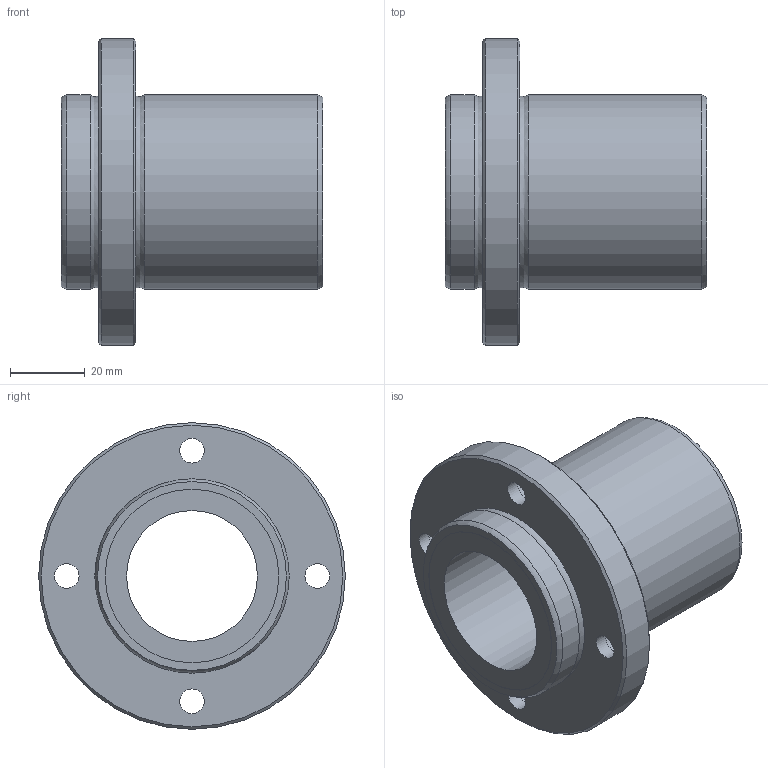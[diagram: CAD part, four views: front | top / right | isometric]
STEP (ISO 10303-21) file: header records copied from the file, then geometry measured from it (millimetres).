
FILE_DESCRIPTION((''),'2;1');
FILE_NAME('D:\製品 (図面)\カタログ用3D\リニアベアリング関連\STEP形式\LFB\LFB35.stp','2010-06-03T09:18:29',('Tsuchiya'),(''),'Autodesk Inventor 10','Autodesk Inventor 10','');
FILE_SCHEMA(('AUTOMOTIVE_DESIGN { 1 0 10303 214 1 1 1 1 }'));
Length unit declared in the file: millimetre
Products named in the file (1): LFB35
Bounding box: 70 x 82 x 82 mm (x, y, z)
Volume: 109238.2 mm3; surface area: 29368.1 mm2
Topology: 1 solids, 1 shells, 30 faces, 54 edges, 34 vertices
Faces by surface type: bspline 14, cylinder 6, plane 6, cone 2, torus 2
Full cylindrical faces by diameter (mm): 35 x1, 46.4 x2, 52 x2, 82 x1
Entity records: 907 total; most frequent: CARTESIAN_POINT 371, DIRECTION 102, ORIENTED_EDGE 68, EDGE_LOOP 68, AXIS2_PLACEMENT_3D 51, FACE_BOUND 38, VERTEX_POINT 34, CIRCLE 34
